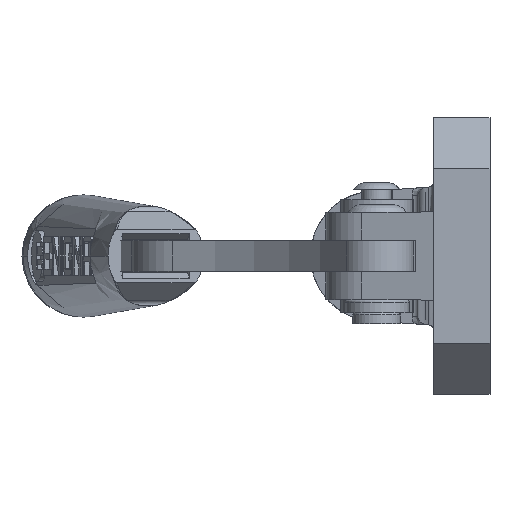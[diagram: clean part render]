
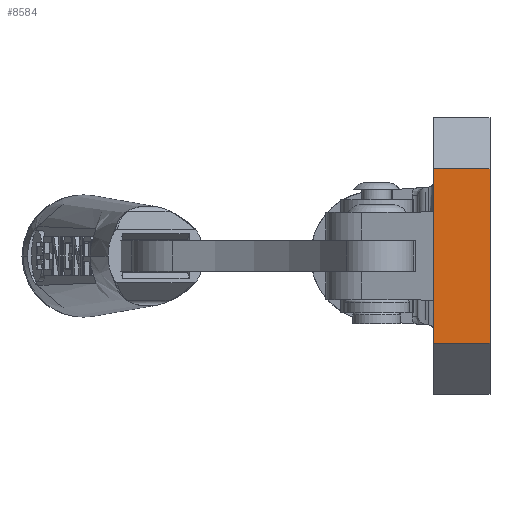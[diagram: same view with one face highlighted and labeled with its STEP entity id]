
A CAD part, left-side view. The second image highlights one B-rep face of the part: STEP entity #8584.
In plain terms, the highlighted planar face has unit normal (-1, 0, 0).
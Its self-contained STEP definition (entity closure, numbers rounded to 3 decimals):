
#2746 = DIRECTION ( 'NONE',  ( 0., 0., 1. ) ) ;
#2961 = VECTOR ( 'NONE', #10832, 1000. ) ;
#3362 = VECTOR ( 'NONE', #30291, 1000. ) ;
#3867 = VERTEX_POINT ( 'NONE', #7251 ) ;
#3884 = LINE ( 'NONE', #30700, #20501 ) ;
#6529 = DIRECTION ( 'NONE',  ( 0., 0., 1. ) ) ;
#7251 = CARTESIAN_POINT ( 'NONE',  ( -60.75, 0., 17. ) ) ;
#8396 = FACE_OUTER_BOUND ( 'NONE', #39644, .T. ) ;
#8584 = ADVANCED_FACE ( 'NONE', ( #8396 ), #14465, .F. ) ;
#9760 = EDGE_CURVE ( 'NONE', #30717, #30724, #18407, .T. ) ;
#10545 = EDGE_CURVE ( 'NONE', #3867, #18689, #39310, .T. ) ;
#10832 = DIRECTION ( 'NONE',  ( 0., 0., 1. ) ) ;
#11070 = ORIENTED_EDGE ( 'NONE', *, *, #26736, .F. ) ;
#11238 = ORIENTED_EDGE ( 'NONE', *, *, #35849, .T. ) ;
#11796 = CARTESIAN_POINT ( 'NONE',  ( -60.75, 11., 17. ) ) ;
#12084 = CARTESIAN_POINT ( 'NONE',  ( -60.75, 11., 8.75 ) ) ;
#12478 = CARTESIAN_POINT ( 'NONE',  ( -60.75, 11., -8.75 ) ) ;
#12490 = DIRECTION ( 'NONE',  ( 0., -1., 0. ) ) ;
#12779 = DIRECTION ( 'NONE',  ( 0., 0., 1. ) ) ;
#13882 = CARTESIAN_POINT ( 'NONE',  ( -60.75, 0., -17. ) ) ;
#14450 = LINE ( 'NONE', #20055, #2961 ) ;
#14465 = PLANE ( 'NONE',  #18731 ) ;
#15501 = LINE ( 'NONE', #33238, #24921 ) ;
#17427 = CARTESIAN_POINT ( 'NONE',  ( -60.75, 11., 17. ) ) ;
#18407 = LINE ( 'NONE', #27638, #24509 ) ;
#18689 = VERTEX_POINT ( 'NONE', #17427 ) ;
#18731 = AXIS2_PLACEMENT_3D ( 'NONE', #24101, #29943, #29745 ) ;
#18967 = ORIENTED_EDGE ( 'NONE', *, *, #33426, .F. ) ;
#20055 = CARTESIAN_POINT ( 'NONE',  ( -60.75, 11., -27. ) ) ;
#20501 = VECTOR ( 'NONE', #12779, 1000. ) ;
#22234 = ORIENTED_EDGE ( 'NONE', *, *, #38276, .T. ) ;
#24101 = CARTESIAN_POINT ( 'NONE',  ( -60.75, 11., -27. ) ) ;
#24509 = VECTOR ( 'NONE', #6529, 1000. ) ;
#24921 = VECTOR ( 'NONE', #12490, 1000. ) ;
#26736 = EDGE_CURVE ( 'NONE', #29109, #30717, #14450, .T. ) ;
#27638 = CARTESIAN_POINT ( 'NONE',  ( -60.75, 11., -8.75 ) ) ;
#28029 = VECTOR ( 'NONE', #2746, 1000. ) ;
#28069 = VERTEX_POINT ( 'NONE', #13882 ) ;
#29109 = VERTEX_POINT ( 'NONE', #38000 ) ;
#29745 = DIRECTION ( 'NONE',  ( 0., 0., -1. ) ) ;
#29943 = DIRECTION ( 'NONE',  ( 1., 0., 0. ) ) ;
#30291 = DIRECTION ( 'NONE',  ( 0., 1., 0. ) ) ;
#30700 = CARTESIAN_POINT ( 'NONE',  ( -60.75, 0., -27. ) ) ;
#30717 = VERTEX_POINT ( 'NONE', #12478 ) ;
#30724 = VERTEX_POINT ( 'NONE', #12084 ) ;
#32312 = ORIENTED_EDGE ( 'NONE', *, *, #10545, .T. ) ;
#33238 = CARTESIAN_POINT ( 'NONE',  ( -60.75, 11., -17. ) ) ;
#33426 = EDGE_CURVE ( 'NONE', #30724, #18689, #33527, .T. ) ;
#33527 = LINE ( 'NONE', #33722, #28029 ) ;
#33722 = CARTESIAN_POINT ( 'NONE',  ( -60.75, 11., -27. ) ) ;
#35416 = ORIENTED_EDGE ( 'NONE', *, *, #9760, .F. ) ;
#35849 = EDGE_CURVE ( 'NONE', #29109, #28069, #15501, .T. ) ;
#38000 = CARTESIAN_POINT ( 'NONE',  ( -60.75, 11., -17. ) ) ;
#38276 = EDGE_CURVE ( 'NONE', #28069, #3867, #3884, .T. ) ;
#39310 = LINE ( 'NONE', #11796, #3362 ) ;
#39644 = EDGE_LOOP ( 'NONE', ( #22234, #32312, #18967, #35416, #11070, #11238 ) ) ;
